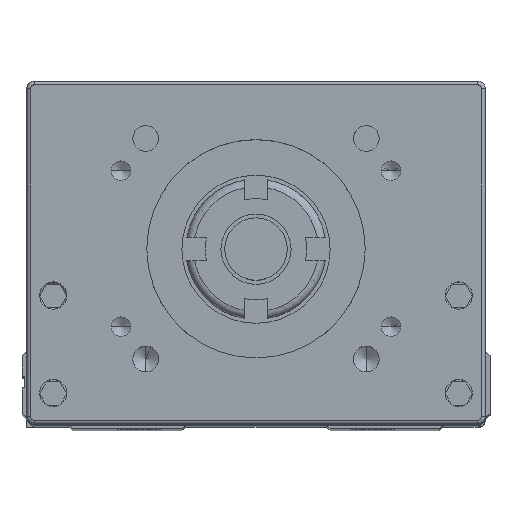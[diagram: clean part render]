
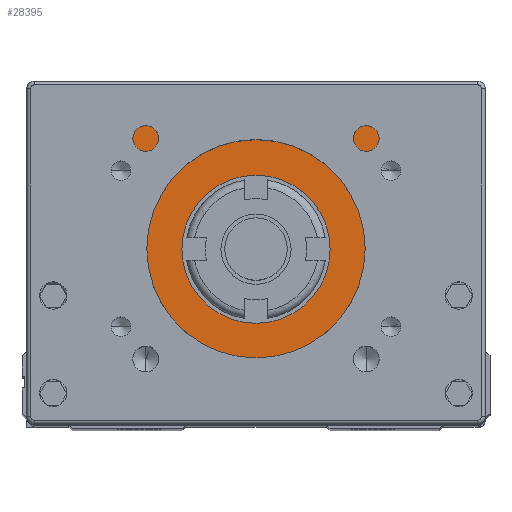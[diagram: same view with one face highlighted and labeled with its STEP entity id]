
A CAD part, top view. The second image highlights one B-rep face of the part: STEP entity #28395.
In plain terms, the highlighted planar face has unit normal (0, 0, 1).
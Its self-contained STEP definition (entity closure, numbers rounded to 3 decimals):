
#389 = ORIENTED_EDGE ( 'NONE', *, *, #25803, .F. ) ;
#416 = CARTESIAN_POINT ( 'NONE',  ( 24.351, 12.398, 93.5 ) ) ;
#809 = CARTESIAN_POINT ( 'NONE',  ( 12.935, 26.398, 93.5 ) ) ;
#2091 = EDGE_CURVE ( 'NONE', #29957, #29346, #17392, .T. ) ;
#2376 = CARTESIAN_POINT ( 'NONE',  ( 51.735, 26.398, 93.5 ) ) ;
#2997 = AXIS2_PLACEMENT_3D ( 'NONE', #18003, #61260, #28361 ) ;
#5502 = DIRECTION ( 'NONE',  ( -1., 0., 0. ) ) ;
#6112 = CARTESIAN_POINT ( 'NONE',  ( 12.935, 26.398, 93.5 ) ) ;
#6241 = VERTEX_POINT ( 'NONE', #51039 ) ;
#7133 = VECTOR ( 'NONE', #34650, 1000. ) ;
#7329 = ORIENTED_EDGE ( 'NONE', *, *, #57897, .F. ) ;
#10068 = VECTOR ( 'NONE', #24972, 1000. ) ;
#10459 = CARTESIAN_POINT ( 'NONE',  ( 60.735, 26.398, 93.5 ) ) ;
#10833 = DIRECTION ( 'NONE',  ( 1., 0., 0. ) ) ;
#10851 = DIRECTION ( 'NONE',  ( 0., 1., 0. ) ) ;
#11393 = DIRECTION ( 'NONE',  ( 0., -1., 0. ) ) ;
#11433 = PLANE ( 'NONE',  #54258 ) ;
#12392 = ORIENTED_EDGE ( 'NONE', *, *, #16976, .F. ) ;
#12836 = ORIENTED_EDGE ( 'NONE', *, *, #56534, .F. ) ;
#13364 = CARTESIAN_POINT ( 'NONE',  ( 12.335, 32.398, 93.5 ) ) ;
#13469 = ORIENTED_EDGE ( 'NONE', *, *, #43392, .T. ) ;
#13969 = VERTEX_POINT ( 'NONE', #14548 ) ;
#14184 = VECTOR ( 'NONE', #14854, 1000. ) ;
#14220 = VERTEX_POINT ( 'NONE', #43287 ) ;
#14548 = CARTESIAN_POINT ( 'NONE',  ( 12.935, 12.398, 93.5 ) ) ;
#14854 = DIRECTION ( 'NONE',  ( 1., 0., 0. ) ) ;
#14901 = ORIENTED_EDGE ( 'NONE', *, *, #2091, .F. ) ;
#14928 = LINE ( 'NONE', #34079, #42255 ) ;
#15481 = DIRECTION ( 'NONE',  ( 0., 0., -1. ) ) ;
#15586 = CARTESIAN_POINT ( 'NONE',  ( 60.735, 32.398, 93.5 ) ) ;
#15865 = DIRECTION ( 'NONE',  ( 0., -1., 0. ) ) ;
#16147 = ORIENTED_EDGE ( 'NONE', *, *, #35374, .F. ) ;
#16332 = ORIENTED_EDGE ( 'NONE', *, *, #28460, .F. ) ;
#16976 = EDGE_CURVE ( 'NONE', #44039, #33264, #44034, .T. ) ;
#17392 = LINE ( 'NONE', #22077, #43281 ) ;
#18003 = CARTESIAN_POINT ( 'NONE',  ( 32.335, 23.898, 93.5 ) ) ;
#18341 = ORIENTED_EDGE ( 'NONE', *, *, #57692, .F. ) ;
#19480 = VERTEX_POINT ( 'NONE', #40765 ) ;
#20592 = LINE ( 'NONE', #809, #53539 ) ;
#21144 = CARTESIAN_POINT ( 'NONE',  ( 12.935, 44.398, 93.5 ) ) ;
#21192 = CIRCLE ( 'NONE', #40233, 14. ) ;
#21642 = EDGE_LOOP ( 'NONE', ( #48722, #7329, #18341, #16147, #389, #26355, #42402, #52996, #13469, #33141, #25166, #49307, #12836, #14901 ) ) ;
#21877 = VERTEX_POINT ( 'NONE', #55805 ) ;
#21974 = FACE_BOUND ( 'NONE', #33908, .T. ) ;
#22077 = CARTESIAN_POINT ( 'NONE',  ( 3.935, 26.398, 93.5 ) ) ;
#22780 = LINE ( 'NONE', #41915, #26751 ) ;
#23130 = CARTESIAN_POINT ( 'NONE',  ( 41.835, 23.898, 93.5 ) ) ;
#23166 = VERTEX_POINT ( 'NONE', #416 ) ;
#24174 = EDGE_CURVE ( 'NONE', #54963, #6241, #44089, .T. ) ;
#24914 = CARTESIAN_POINT ( 'NONE',  ( 12.335, 26.398, 93.5 ) ) ;
#24972 = DIRECTION ( 'NONE',  ( 0., -1., 0. ) ) ;
#25166 = ORIENTED_EDGE ( 'NONE', *, *, #29353, .F. ) ;
#25491 = VERTEX_POINT ( 'NONE', #48379 ) ;
#25803 = EDGE_CURVE ( 'NONE', #21877, #25491, #22780, .T. ) ;
#26355 = ORIENTED_EDGE ( 'NONE', *, *, #28169, .F. ) ;
#26693 = DIRECTION ( 'NONE',  ( 0., 0., 1. ) ) ;
#26751 = VECTOR ( 'NONE', #61041, 1000. ) ;
#28136 = VECTOR ( 'NONE', #52524, 1000. ) ;
#28169 = EDGE_CURVE ( 'NONE', #58652, #21877, #58855, .T. ) ;
#28361 = DIRECTION ( 'NONE',  ( 1., 0., 0. ) ) ;
#28395 = ADVANCED_FACE ( 'NONE', ( #21974, #49079 ), #11433, .F. ) ;
#28460 = EDGE_CURVE ( 'NONE', #33264, #44039, #38174, .T. ) ;
#28961 = LINE ( 'NONE', #29919, #28136 ) ;
#29346 = VERTEX_POINT ( 'NONE', #30616 ) ;
#29353 = EDGE_CURVE ( 'NONE', #19480, #54963, #58792, .T. ) ;
#29919 = CARTESIAN_POINT ( 'NONE',  ( 12.935, 29.398, 93.5 ) ) ;
#29957 = VERTEX_POINT ( 'NONE', #44424 ) ;
#30616 = CARTESIAN_POINT ( 'NONE',  ( 3.935, 32.398, 93.5 ) ) ;
#31674 = CARTESIAN_POINT ( 'NONE',  ( 12.935, 12.398, 93.5 ) ) ;
#31741 = VERTEX_POINT ( 'NONE', #15586 ) ;
#32855 = VECTOR ( 'NONE', #11393, 1000. ) ;
#33141 = ORIENTED_EDGE ( 'NONE', *, *, #24174, .F. ) ;
#33264 = VERTEX_POINT ( 'NONE', #43533 ) ;
#33397 = LINE ( 'NONE', #49046, #14184 ) ;
#33908 = EDGE_LOOP ( 'NONE', ( #12392, #16332 ) ) ;
#34059 = DIRECTION ( 'NONE',  ( -1., 0., 0. ) ) ;
#34079 = CARTESIAN_POINT ( 'NONE',  ( 51.735, 32.398, 93.5 ) ) ;
#34104 = CARTESIAN_POINT ( 'NONE',  ( 52.335, 26.398, 93.5 ) ) ;
#34644 = DIRECTION ( 'NONE',  ( 0., -1., 0. ) ) ;
#34650 = DIRECTION ( 'NONE',  ( 1., 0., 0. ) ) ;
#34774 = EDGE_CURVE ( 'NONE', #14220, #58652, #28961, .T. ) ;
#35374 = EDGE_CURVE ( 'NONE', #25491, #23166, #21192, .T. ) ;
#36415 = CARTESIAN_POINT ( 'NONE',  ( 32.335, 23.898, 93.5 ) ) ;
#38159 = LINE ( 'NONE', #57286, #56854 ) ;
#38174 = CIRCLE ( 'NONE', #44117, 9.5 ) ;
#40233 = AXIS2_PLACEMENT_3D ( 'NONE', #58793, #48766, #53227 ) ;
#40765 = CARTESIAN_POINT ( 'NONE',  ( 12.335, 44.398, 93.5 ) ) ;
#41622 = CARTESIAN_POINT ( 'NONE',  ( 12.935, 29.398, 93.5 ) ) ;
#41915 = CARTESIAN_POINT ( 'NONE',  ( 12.935, 12.398, 93.5 ) ) ;
#42255 = VECTOR ( 'NONE', #5502, 1000. ) ;
#42402 = ORIENTED_EDGE ( 'NONE', *, *, #34774, .F. ) ;
#43281 = VECTOR ( 'NONE', #60046, 1000. ) ;
#43287 = CARTESIAN_POINT ( 'NONE',  ( 60.735, 29.398, 93.5 ) ) ;
#43392 = EDGE_CURVE ( 'NONE', #31741, #6241, #14928, .T. ) ;
#43533 = CARTESIAN_POINT ( 'NONE',  ( 22.835, 23.898, 93.5 ) ) ;
#44034 = CIRCLE ( 'NONE', #2997, 9.5 ) ;
#44035 = LINE ( 'NONE', #24914, #51221 ) ;
#44039 = VERTEX_POINT ( 'NONE', #23130 ) ;
#44089 = LINE ( 'NONE', #34104, #10068 ) ;
#44117 = AXIS2_PLACEMENT_3D ( 'NONE', #36415, #26693, #10833 ) ;
#44290 = LINE ( 'NONE', #10459, #32855 ) ;
#44424 = CARTESIAN_POINT ( 'NONE',  ( 3.935, 29.398, 93.5 ) ) ;
#45411 = EDGE_CURVE ( 'NONE', #54562, #19480, #44035, .T. ) ;
#45709 = LINE ( 'NONE', #31674, #57316 ) ;
#46945 = VERTEX_POINT ( 'NONE', #41622 ) ;
#48379 = CARTESIAN_POINT ( 'NONE',  ( 40.32, 12.398, 93.5 ) ) ;
#48722 = ORIENTED_EDGE ( 'NONE', *, *, #59946, .F. ) ;
#48766 = DIRECTION ( 'NONE',  ( 0., 0., -1. ) ) ;
#48834 = DIRECTION ( 'NONE',  ( 0., 1., 0. ) ) ;
#49046 = CARTESIAN_POINT ( 'NONE',  ( 12.935, 32.398, 93.5 ) ) ;
#49079 = FACE_OUTER_BOUND ( 'NONE', #21642, .T. ) ;
#49307 = ORIENTED_EDGE ( 'NONE', *, *, #45411, .F. ) ;
#50127 = CARTESIAN_POINT ( 'NONE',  ( 51.735, 29.398, 93.5 ) ) ;
#51039 = CARTESIAN_POINT ( 'NONE',  ( 52.335, 32.398, 93.5 ) ) ;
#51221 = VECTOR ( 'NONE', #10851, 1000. ) ;
#52524 = DIRECTION ( 'NONE',  ( -1., 0., 0. ) ) ;
#52996 = ORIENTED_EDGE ( 'NONE', *, *, #60324, .F. ) ;
#53227 = DIRECTION ( 'NONE',  ( 1., 0., 0. ) ) ;
#53539 = VECTOR ( 'NONE', #48834, 1000. ) ;
#54210 = VECTOR ( 'NONE', #15865, 1000. ) ;
#54258 = AXIS2_PLACEMENT_3D ( 'NONE', #6112, #15481, #34644 ) ;
#54562 = VERTEX_POINT ( 'NONE', #13364 ) ;
#54963 = VERTEX_POINT ( 'NONE', #55399 ) ;
#55399 = CARTESIAN_POINT ( 'NONE',  ( 52.335, 44.398, 93.5 ) ) ;
#55805 = CARTESIAN_POINT ( 'NONE',  ( 51.735, 12.398, 93.5 ) ) ;
#55826 = DIRECTION ( 'NONE',  ( -1., 0., 0. ) ) ;
#56534 = EDGE_CURVE ( 'NONE', #29346, #54562, #33397, .T. ) ;
#56854 = VECTOR ( 'NONE', #34059, 1000. ) ;
#57286 = CARTESIAN_POINT ( 'NONE',  ( 12.935, 29.398, 93.5 ) ) ;
#57316 = VECTOR ( 'NONE', #55826, 1000. ) ;
#57692 = EDGE_CURVE ( 'NONE', #23166, #13969, #45709, .T. ) ;
#57897 = EDGE_CURVE ( 'NONE', #13969, #46945, #20592, .T. ) ;
#58652 = VERTEX_POINT ( 'NONE', #50127 ) ;
#58792 = LINE ( 'NONE', #21144, #7133 ) ;
#58793 = CARTESIAN_POINT ( 'NONE',  ( 32.335, 23.898, 93.5 ) ) ;
#58855 = LINE ( 'NONE', #2376, #54210 ) ;
#59946 = EDGE_CURVE ( 'NONE', #46945, #29957, #38159, .T. ) ;
#60046 = DIRECTION ( 'NONE',  ( 0., 1., 0. ) ) ;
#60324 = EDGE_CURVE ( 'NONE', #31741, #14220, #44290, .T. ) ;
#61041 = DIRECTION ( 'NONE',  ( -1., 0., 0. ) ) ;
#61260 = DIRECTION ( 'NONE',  ( 0., 0., 1. ) ) ;
